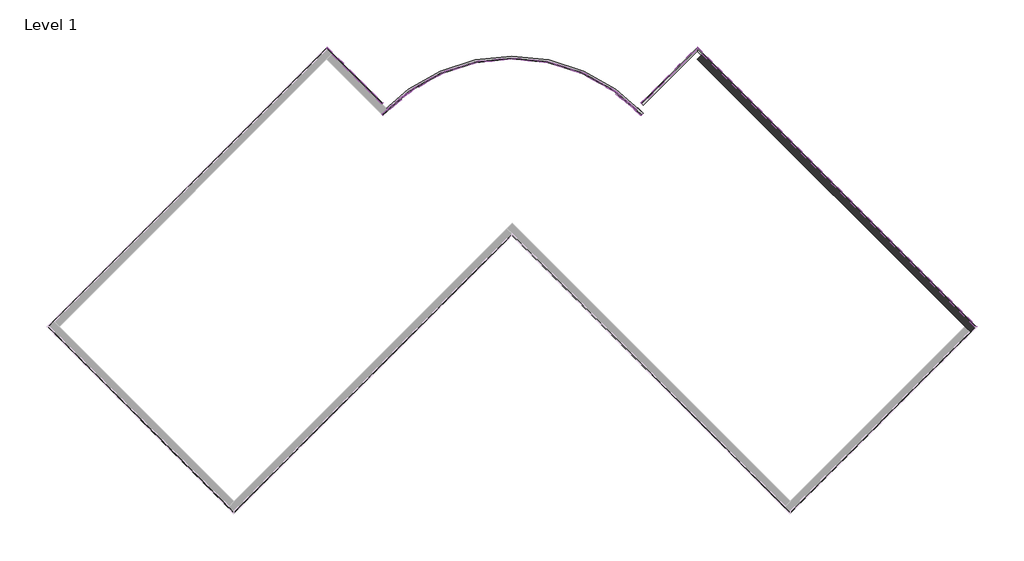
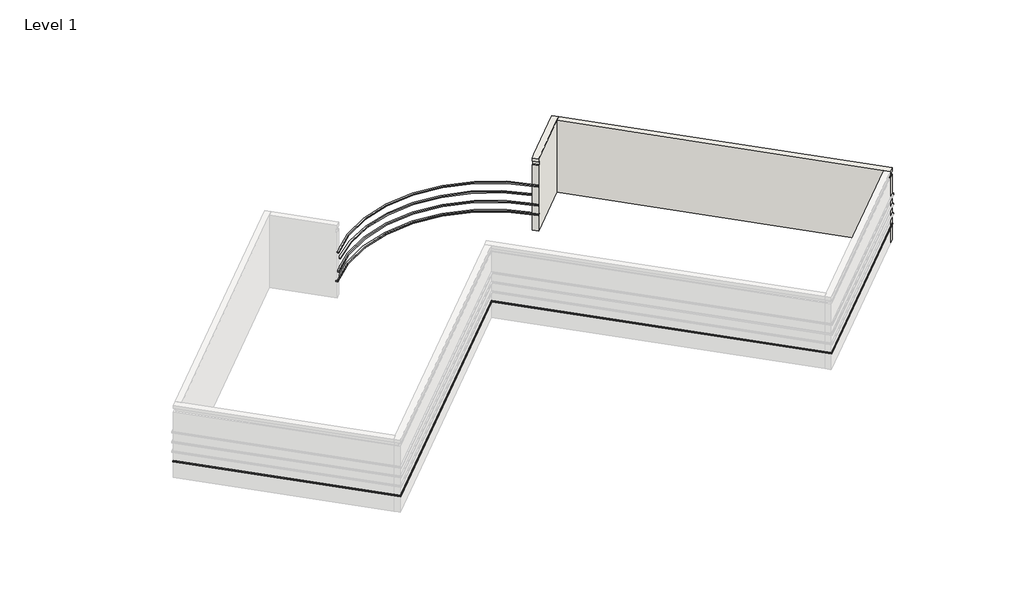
# One storey, part 2 of 2: 21 proxies, 2 walls.
"""IFC4 building model written with IfcOpenShell, lengths in millimetres."""

from ifc_helpers import new_model, si_unit, point, frame, frame_2d, origin, place, context, project, spatial, polyline, circle_curve, trimmed, segment, composite_curve, outline, extrude, faceted_brep, element, save
from ifc_brep_helpers import plane_surface, cylinder_surface, revolved_surface, advanced_brep

model = new_model("IFC4")

# Units and contexts
model_context = context("Model", 3, world=origin())
ifc_project = project(units=[si_unit("LENGTHUNIT", "METRE", prefix="MILLI")], contexts=[model_context])

# Site, building, storey
site = spatial("IfcSite", under=ifc_project)
building = spatial("IfcBuilding", under=site)
storey = spatial("IfcBuildingStorey", under=building, Name="Level 1", Elevation=0.0)

# Proxies
placement = place(None, origin())
element("IfcBuildingElementProxy", 1, Name="Wall Sweeps", at=placement, inside=storey, context=model_context, shape_type="Brep", body=[
    faceted_brep([(6055.5544139, 11965.5260839, 1085.85), (5990.447557, 12030.6329408, 1085.85), (5965.7518526, 12055.3286452, 1041.4), (5965.7518526, 12055.3286452, 1016.0), (6055.5544139, 11965.5260839, 1016.0), (8567.8313142, 14477.8029843, 1085.85), (8567.8313142, 14477.8029843, 1016.0), (8567.8313142, 14657.4081067, 1016.0), (8567.8313142, 14657.4081067, 1041.4), (8567.8313142, 14608.016698, 1085.85)], [[[0, 1, 2, 3, 4]], [[5, 6, 7, 8, 9]], [[1, 0, 5, 9]], [[2, 1, 9, 8]], [[3, 2, 8, 7]], [[4, 3, 7, 6]], [[0, 4, 6, 5]]]),
])
element("IfcBuildingElementProxy", 2, Name="Wall Sweeps", at=placement, inside=storey, context=model_context, shape_type="Brep", body=[
    faceted_brep([(8567.8313142, 14477.8029843, 1085.85), (8567.8313142, 14608.016698, 1085.85), (8567.8313142, 14657.4081067, 1041.4), (8567.8313142, 14657.4081067, 1016.0), (8567.8313142, 14477.8029843, 1016.0), (21369.1864147, 1676.4478837, 1085.85), (21369.1864147, 1676.4478837, 1016.0), (21548.7915372, 1676.4478837, 1016.0), (21548.7915372, 1676.4478837, 1041.4), (21499.4001285, 1676.4478837, 1085.85)], [[[0, 1, 2, 3, 4]], [[5, 6, 7, 8, 9]], [[1, 0, 5, 9]], [[2, 1, 9, 8]], [[3, 2, 8, 7]], [[4, 3, 7, 6]], [[0, 4, 6, 5]]]),
])
element("IfcBuildingElementProxy", 3, Name="Wall Sweeps", at=placement, inside=storey, context=model_context, shape_type="Brep", body=[
    faceted_brep([(21369.1864147, 1676.4478837, 1085.85), (21499.4001285, 1676.4478837, 1085.85), (21548.7915372, 1676.4478837, 1041.4), (21548.7915372, 1676.4478837, 1016.0), (21369.1864147, 1676.4478837, 1016.0), (12878.3542523, -6814.3842788, 1085.85), (12878.3542523, -6814.3842788, 1016.0), (12878.3542523, -6993.9894012, 1016.0), (12878.3542523, -6993.9894012, 1041.4), (12878.3542523, -6944.5979926, 1085.85)], [[[0, 1, 2, 3, 4]], [[5, 6, 7, 8, 9]], [[1, 0, 5, 9]], [[2, 1, 9, 8]], [[3, 2, 8, 7]], [[4, 3, 7, 6]], [[0, 4, 6, 5]]]),
])
element("IfcBuildingElementProxy", 4, Name="Wall Sweeps", at=placement, inside=storey, context=model_context, shape_type="Brep", body=[
    faceted_brep([(12878.3542523, -6814.3842788, 1085.85), (12878.3542523, -6944.5979926, 1085.85), (12878.3542523, -6993.9894012, 1041.4), (12878.3542523, -6993.9894012, 1016.0), (12878.3542523, -6814.3842788, 1016.0), (-53.2145621, 6117.1845355, 1085.85), (-53.2145621, 6117.1845355, 1016.0), (-53.2145621, 5937.5794131, 1016.0), (-53.2145621, 5937.5794131, 1041.4), (-53.2145621, 5986.9708218, 1085.85)], [[[0, 1, 2, 3, 4]], [[5, 6, 7, 8, 9]], [[1, 0, 5, 9]], [[2, 1, 9, 8]], [[3, 2, 8, 7]], [[4, 3, 7, 6]], [[0, 4, 6, 5]]]),
])
element("IfcBuildingElementProxy", 5, Name="Wall Sweeps", at=placement, inside=storey, context=model_context, shape_type="Brep", body=[
    faceted_brep([(-53.2145621, 6117.1845355, 1085.85), (-53.2145621, 5986.9708218, 1085.85), (-53.2145621, 5937.5794131, 1041.4), (-53.2145621, 5937.5794131, 1016.0), (-53.2145621, 6117.1845355, 1016.0), (-12984.7833764, -6814.3842788, 1085.85), (-12984.7833764, -6814.3842788, 1016.0), (-12984.7833764, -6993.9894012, 1016.0), (-12984.7833764, -6993.9894012, 1041.4), (-12984.7833764, -6944.5979926, 1085.85)], [[[0, 1, 2, 3, 4]], [[5, 6, 7, 8, 9]], [[1, 0, 5, 9]], [[2, 1, 9, 8]], [[3, 2, 8, 7]], [[4, 3, 7, 6]], [[0, 4, 6, 5]]]),
])
element("IfcBuildingElementProxy", 6, Name="Wall Sweeps", at=placement, inside=storey, context=model_context, shape_type="Brep", body=[
    faceted_brep([(-21475.6155389, 1676.4478837, 1085.85), (-21605.8292526, 1676.4478837, 1085.85), (-21655.2206613, 1676.4478837, 1041.4), (-21655.2206613, 1676.4478837, 1016.0), (-21475.6155389, 1676.4478837, 1016.0), (-8674.2604383, 14477.8029843, 1085.85), (-8674.2604383, 14477.8029843, 1016.0), (-8674.2604383, 14657.4081067, 1016.0), (-8674.2604383, 14657.4081067, 1041.4), (-8674.2604383, 14608.016698, 1085.85)], [[[0, 1, 2, 3, 4]], [[5, 6, 7, 8, 9]], [[1, 0, 5, 9]], [[2, 1, 9, 8]], [[3, 2, 8, 7]], [[4, 3, 7, 6]], [[0, 4, 6, 5]]]),
])
element("IfcBuildingElementProxy", 7, Name="Wall Sweeps", at=placement, inside=storey, context=model_context, shape_type="Brep", body=[
    faceted_brep([(-8674.2604383, 14477.8029843, 1085.85), (-8674.2604383, 14608.016698, 1085.85), (-8674.2604383, 14657.4081067, 1041.4), (-8674.2604383, 14657.4081067, 1016.0), (-8674.2604383, 14477.8029843, 1016.0), (-6161.983538, 11965.5260839, 1085.85), (-6161.983538, 11965.5260839, 1016.0), (-6072.1809768, 12055.3286452, 1016.0), (-6072.1809768, 12055.3286452, 1041.4), (-6096.8766811, 12030.6329408, 1085.85)], [[[0, 1, 2, 3, 4]], [[5, 6, 7, 8, 9]], [[1, 0, 5, 9]], [[2, 1, 9, 8]], [[3, 2, 8, 7]], [[4, 3, 7, 6]], [[0, 4, 6, 5]]]),
])
element("IfcBuildingElementProxy", 8, Name="Wall Sweeps", at=placement, inside=storey, context=model_context, shape_type="AdvancedBrep", body=[
    advanced_brep(
    [(-6160.1647864, 11590.4931541, 1085.85), (-6160.1647864, 11590.4931541, 1016.0), (-6066.9644777, 11504.2220555, 1016.0), (-6066.9644777, 11504.2220555, 1041.4), (-6092.5945626, 11527.9466076, 1085.85), (6053.7356622, 11590.4931541, 1085.85), (5986.1654385, 11527.9466076, 1085.85), (5960.5353536, 11504.2220555, 1041.4), (5960.5353536, 11504.2220555, 1016.0), (6053.7356622, 11590.4931541, 1016.0)],
    [
        (0, 1),
        (1, 2),
        (2, 3),
        (3, 4),
        (4, 0),
        (5, 6),
        (6, 7),
        (7, 8),
        (8, 9),
        (9, 5),
        (9, 1, circle_curve(frame((-53.2145621, 5937.5794131, 1016.0), z_axis=(0.0, 0.0, 1.0), x_axis=(-0.7338606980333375, 0.679299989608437, 0.0)), 8321.675)),
        (0, 5, circle_curve(frame((-53.2145621, 5937.5794131, 1085.85), z_axis=(0.0, 0.0, -1.0), x_axis=(-0.7338606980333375, 0.679299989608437, 0.0)), 8321.675)),
        (8, 2, circle_curve(frame((-53.2145621, 5937.5794131, 1016.0), z_axis=(0.0, 0.0, 1.0), x_axis=(-0.7338606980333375, 0.679299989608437, 0.0)), 8194.675)),
        (7, 3, circle_curve(frame((-53.2145621, 5937.5794131, 1041.4), z_axis=(0.0, 0.0, 1.0), x_axis=(-0.7338606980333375, 0.679299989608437, 0.0)), 8194.675)),
        (6, 4, circle_curve(frame((-53.2145621, 5937.5794131, 1085.85), z_axis=(0.0, 0.0, 1.0), x_axis=(-0.7338606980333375, 0.679299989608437, 0.0)), 8229.6)),
    ],
    [
        plane_surface(frame((-53.2145621, 5937.5794131, 1016.0), z_axis=(-0.679299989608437, -0.7338606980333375, 0.0), x_axis=(-0.7338606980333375, 0.679299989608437, 0.0))),
        plane_surface(frame((-53.2145621, 5937.5794131, 1016.0), z_axis=(0.6792999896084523, -0.7338606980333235, 0.0), x_axis=(0.7338606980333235, 0.6792999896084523, 0.0))),
        cylinder_surface(frame((-53.2145621, 5937.5794131, 1016.0), z_axis=(0.0, 0.0, -1.0), x_axis=(-0.7338606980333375, 0.679299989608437, 0.0)), 8321.675),
        plane_surface(frame((-53.2145621, 5937.5794131, 1016.0), z_axis=(0.0, 0.0, -1.0), x_axis=(-0.7338606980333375, 0.679299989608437, 0.0))),
        revolved_surface(polyline([(-6066.96447775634, 11504.222055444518, 1016.0), (-6066.96447775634, 11504.222055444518, 1041.4)]), (-53.2145621, 5937.5794131, 1016.0), (0.0, 0.0, -1.0)),
        revolved_surface(polyline([(-6066.9644777, 11504.2220555, 1041.4), (-6092.5945626, 11527.9466076, 1085.85)]), (-53.2145621, 5937.5794131, 1016.0), (0.0, 0.0, -1.0)),
        plane_surface(frame((-53.2145621, 5937.5794131, 1085.85), z_axis=(0.0, 0.0, 1.0), x_axis=(-0.7338606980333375, 0.679299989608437, 0.0))),
    ],
    [
        (0, [[1, 2, 3, 4, 5]]),
        (1, [[6, 7, 8, 9, 10]]),
        (2, [[11, -1, 12, -10]]),
        (3, [[13, -2, -11, -9]]),
        (4, [[14, -3, -13, -8]]),
        (5, [[15, -4, -14, -7]]),
        (6, [[-12, -5, -15, -6]]),
    ],
),
])
element("IfcBuildingElementProxy", 9, Name="Wall Sweeps", at=placement, inside=storey, context=model_context, shape_type="Brep", body=[
    faceted_brep([(-12984.7833764, -6814.3842788, 1085.85), (-12984.7833764, -6944.5979926, 1085.85), (-12984.7833764, -6993.9894012, 1041.4), (-12984.7833764, -6993.9894012, 1016.0), (-12984.7833764, -6814.3842788, 1016.0), (-21475.6155389, 1676.4478837, 1085.85), (-21475.6155389, 1676.4478837, 1016.0), (-21655.2206613, 1676.4478837, 1016.0), (-21655.2206613, 1676.4478837, 1041.4), (-21605.8292526, 1676.4478837, 1085.85)], [[[0, 1, 2, 3, 4]], [[5, 6, 7, 8, 9]], [[1, 0, 5, 9]], [[2, 1, 9, 8]], [[3, 2, 8, 7]], [[4, 3, 7, 6]], [[0, 4, 6, 5]]]),
])
element("IfcBuildingElementProxy", 10, Name="Reveals", at=placement, inside=storey, context=model_context, shape_type="SweptSolid", body=[
    extrude(outline(polyline([(6008.4080692, 12012.6724286), (5943.3012123, 12077.7792855), (8567.8313142, 14702.3093873), (8567.8313142, 14572.0956735), (6008.4080692, 12012.6724286)])), frame((0.0, 0.0, 1625.6), z_axis=(0.0, 0.0, 1.0), x_axis=(1.0, 0.0, 0.0)), (0.0, 0.0, 1.0), 67.7333333),
])
element("IfcBuildingElementProxy", 11, Name="Reveals", at=placement, inside=storey, context=model_context, shape_type="SweptSolid", body=[
    extrude(outline(polyline([(6008.4080692, 12012.6724286), (5943.3012123, 12077.7792855), (8567.8313142, 14702.3093873), (8567.8313142, 14572.0956735), (6008.4080692, 12012.6724286)])), frame((0.0, 0.0, 2235.2), z_axis=(0.0, 0.0, 1.0), x_axis=(1.0, 0.0, 0.0)), (0.0, 0.0, 1.0), 67.7333333),
])
element("IfcBuildingElementProxy", 12, Name="Reveals", at=placement, inside=storey, context=model_context, shape_type="SweptSolid", body=[
    extrude(outline(polyline([(6008.4080692, 12012.6724286), (5943.3012123, 12077.7792855), (8567.8313142, 14702.3093873), (8567.8313142, 14572.0956735), (6008.4080692, 12012.6724286)])), frame((0.0, 0.0, 2844.8), z_axis=(0.0, 0.0, 1.0), x_axis=(1.0, 0.0, 0.0)), (0.0, 0.0, 1.0), 67.7333333),
])
element("IfcBuildingElementProxy", 13, Name="Reveals", at=placement, inside=storey, context=model_context, shape_type="SweptSolid", body=[
    extrude(outline(polyline([(8567.8313142, 14572.0956735), (8567.8313142, 14702.3093873), (21593.6928178, 1676.4478837), (21463.479104, 1676.4478837), (8567.8313142, 14572.0956735)])), frame((0.0, 0.0, 1625.6), z_axis=(0.0, 0.0, 1.0), x_axis=(1.0, 0.0, 0.0)), (0.0, 0.0, 1.0), 67.7333333),
])
element("IfcBuildingElementProxy", 14, Name="Reveals", at=placement, inside=storey, context=model_context, shape_type="SweptSolid", body=[
    extrude(outline(polyline([(8567.8313142, 14572.0956735), (8567.8313142, 14702.3093873), (21593.6928178, 1676.4478837), (21463.479104, 1676.4478837), (8567.8313142, 14572.0956735)])), frame((0.0, 0.0, 2235.2), z_axis=(0.0, 0.0, 1.0), x_axis=(1.0, 0.0, 0.0)), (0.0, 0.0, 1.0), 67.7333333),
])
element("IfcBuildingElementProxy", 15, Name="Reveals", at=placement, inside=storey, context=model_context, shape_type="SweptSolid", body=[
    extrude(outline(polyline([(8567.8313142, 14572.0956735), (8567.8313142, 14702.3093873), (21593.6928178, 1676.4478837), (21463.479104, 1676.4478837), (8567.8313142, 14572.0956735)])), frame((0.0, 0.0, 2844.8), z_axis=(0.0, 0.0, 1.0), x_axis=(1.0, 0.0, 0.0)), (0.0, 0.0, 1.0), 67.7333333),
])
element("IfcBuildingElementProxy", 16, Name="Reveals", at=placement, inside=storey, context=model_context, shape_type="SweptSolid", body=[
    extrude(outline(polyline([(-8674.2604383, 14572.0956735), (-8674.2604383, 14702.3093873), (-6049.7303365, 12077.7792855), (-6114.8371933, 12012.6724286), (-8674.2604383, 14572.0956735)])), frame((0.0, 0.0, 1625.6), z_axis=(0.0, 0.0, 1.0), x_axis=(1.0, 0.0, 0.0)), (0.0, 0.0, 1.0), 67.7333333),
])
element("IfcBuildingElementProxy", 17, Name="Reveals", at=placement, inside=storey, context=model_context, shape_type="SweptSolid", body=[
    extrude(outline(polyline([(-8674.2604383, 14572.0956735), (-8674.2604383, 14702.3093873), (-6049.7303365, 12077.7792855), (-6114.8371933, 12012.6724286), (-8674.2604383, 14572.0956735)])), frame((0.0, 0.0, 2235.2), z_axis=(0.0, 0.0, 1.0), x_axis=(1.0, 0.0, 0.0)), (0.0, 0.0, 1.0), 67.7333333),
])
element("IfcBuildingElementProxy", 18, Name="Reveals", at=placement, inside=storey, context=model_context, shape_type="SweptSolid", body=[
    extrude(outline(polyline([(-8674.2604383, 14572.0956735), (-8674.2604383, 14702.3093873), (-6049.7303365, 12077.7792855), (-6114.8371933, 12012.6724286), (-8674.2604383, 14572.0956735)])), frame((0.0, 0.0, 2844.8), z_axis=(0.0, 0.0, 1.0), x_axis=(1.0, 0.0, 0.0)), (0.0, 0.0, 1.0), 67.7333333),
])
element("IfcBuildingElementProxy", 19, Name="Reveals", at=placement, inside=storey, context=model_context, shape_type="SweptSolid", body=[
    extrude(outline(composite_curve([segment(trimmed(circle_curve(frame_2d((-53.2145621, 5937.5794131)), 8162.925), [point((5938.9836802, 11480.7648494))], [point((-6045.4128044, 11480.7648494))], True, "CARTESIAN"), True, "CONTINUOUS"), segment(polyline([(-6045.4128044, 11480.7648494), (-6110.5684151, 11545.9204601)]), True, "CONTINUOUS"), segment(trimmed(circle_curve(frame_2d((-53.2145621, 5937.5794131)), 8255.0), [point((-6110.5684151, 11545.9204601))], [point((6004.139291, 11545.9204601))], False, "CARTESIAN"), True, "CONTINUOUS"), segment(polyline([(6004.139291, 11545.9204601), (5938.9836802, 11480.7648494)]), True, "CONTINUOUS")], self_intersect=False)), frame((0.0, 0.0, 1625.6), z_axis=(0.0, 0.0, 1.0), x_axis=(1.0, 0.0, 0.0)), (0.0, 0.0, 1.0), 67.7333333),
])
element("IfcBuildingElementProxy", 20, Name="Reveals", at=placement, inside=storey, context=model_context, shape_type="SweptSolid", body=[
    extrude(outline(composite_curve([segment(trimmed(circle_curve(frame_2d((-53.2145621, 5937.5794131)), 8162.925), [point((5694.2974585, 11734.0826805))], [point((-5800.7265827, 11734.0826805))], True, "CARTESIAN"), True, "CONTINUOUS"), segment(polyline([(-5800.7265827, 11734.0826805), (-5865.556551, 11799.4652533)]), True, "CONTINUOUS"), segment(trimmed(circle_curve(frame_2d((-53.2145621, 5937.5794131)), 8255.0), [point((-5865.556551, 11799.4652533))], [point((5759.1274269, 11799.4652533))], False, "CARTESIAN"), True, "CONTINUOUS"), segment(polyline([(5759.1274269, 11799.4652533), (5694.2974585, 11734.0826805)]), True, "CONTINUOUS")], self_intersect=False)), frame((0.0, 0.0, 2235.2), z_axis=(0.0, 0.0, 1.0), x_axis=(1.0, 0.0, 0.0)), (0.0, 0.0, 1.0), 67.7333333),
])
element("IfcBuildingElementProxy", 21, Name="Reveals", at=placement, inside=storey, context=model_context, shape_type="SweptSolid", body=[
    extrude(outline(composite_curve([segment(trimmed(circle_curve(frame_2d((-53.2145621, 5937.5794131)), 8162.925), [point((5938.9836802, 11480.7648494))], [point((-6045.4128044, 11480.7648494))], True, "CARTESIAN"), True, "CONTINUOUS"), segment(polyline([(-6045.4128044, 11480.7648494), (-6110.5684151, 11545.9204601)]), True, "CONTINUOUS"), segment(trimmed(circle_curve(frame_2d((-53.2145621, 5937.5794131)), 8255.0), [point((-6110.5684151, 11545.9204601))], [point((6004.139291, 11545.9204601))], False, "CARTESIAN"), True, "CONTINUOUS"), segment(polyline([(6004.139291, 11545.9204601), (5938.9836802, 11480.7648494)]), True, "CONTINUOUS")], self_intersect=False)), frame((0.0, 0.0, 2844.8), z_axis=(0.0, 0.0, 1.0), x_axis=(1.0, 0.0, 0.0)), (0.0, 0.0, 1.0), 67.7333333),
])

# Walls
element("IfcWall", 22, ObjectType="Exterior - Brick and CMU on MTL. Stud", at=placement, inside=storey, context=model_context, shape_type="AdvancedBrep", body=[
    advanced_brep(
    [(5986.1654385, 11527.9466076, 0.0), (8567.8313142, 14109.6124833, 0.0), (8817.0334215, 14358.8145906, 0.0), (8817.0334215, 14358.8145906, 1016.0), (8751.9265646, 14293.7077338, 1016.0), (8751.9265646, 14293.7077338, 1085.85), (8817.0334215, 14358.8145906, 1085.85), (8817.0334215, 14358.8145906, 1625.6), (8799.0729093, 14340.8540784, 1625.6), (8799.0729093, 14340.8540784, 1693.3333333), (8817.0334215, 14358.8145906, 1693.3333333), (8817.0334215, 14358.8145906, 2235.2), (8799.0729093, 14340.8540784, 2235.2), (8799.0729093, 14340.8540784, 2302.9333333), (8817.0334215, 14358.8145906, 2302.9333333), (8817.0334215, 14358.8145906, 2844.8), (8799.0729093, 14340.8540784, 2844.8), (8799.0729093, 14340.8540784, 2912.5333333), (8817.0334215, 14358.8145906, 2912.5333333), (8817.0334215, 14358.8145906, 4165.6), (8751.9265646, 14293.7077338, 4165.6), (8751.9265646, 14293.7077338, 4368.8), (8817.0334215, 14358.8145906, 4368.8), (8817.0334215, 14358.8145906, 4572.0), (8567.8313142, 14109.6124833, 4572.0), (5986.1654385, 11527.9466076, 4572.0), (5986.1654385, 11527.9466076, 4368.8), (6051.3202659, 11593.101435, 4368.8), (6051.3202659, 11593.101435, 4165.6), (5986.1654385, 11527.9466076, 4165.6), (5986.1654385, 11527.9466076, 2912.5333333), (6004.139291, 11545.9204601, 2912.5333333), (6004.139291, 11545.9204601, 2844.8), (5986.1654385, 11527.9466076, 2844.8), (5986.1654385, 11527.9466076, 1693.3333333), (6004.139291, 11545.9204601, 1693.3333333), (6004.139291, 11545.9204601, 1625.6), (5986.1654385, 11527.9466076, 1625.6), (5986.1654385, 11527.9466076, 1085.85), (6051.3202659, 11593.101435, 1085.85), (6051.3202659, 11593.101435, 1016.0), (5986.1654385, 11527.9466076, 1016.0), (5741.2432977, 11781.4286815, 4572.0), (5990.447557, 12030.6329408, 4572.0), (8567.8313142, 14608.016698, 4572.0), (8567.8313142, 14608.016698, 4368.8), (5990.447557, 12030.6329408, 4368.8), (5990.447557, 12030.6329408, 4165.6), (8567.8313142, 14608.016698, 4165.6), (8567.8313142, 14608.016698, 2912.5333333), (5990.447557, 12030.6329408, 2912.5333333), (5990.447557, 12030.6329408, 2844.8), (8567.8313142, 14608.016698, 2844.8), (8567.8313142, 14608.016698, 2302.9333333), (5990.447557, 12030.6329408, 2302.9333333), (5990.447557, 12030.6329408, 2235.2), (8567.8313142, 14608.016698, 2235.2), (8567.8313142, 14608.016698, 1693.3333333), (5990.447557, 12030.6329408, 1693.3333333), (5990.447557, 12030.6329408, 1625.6), (8567.8313142, 14608.016698, 1625.6), (8567.8313142, 14608.016698, 1085.85), (5990.447557, 12030.6329408, 1085.85), (5990.447557, 12030.6329408, 1016.0), (8567.8313142, 14608.016698, 1016.0), (8567.8313142, 14608.016698, 0.0), (5990.447557, 12030.6329408, 0.0), (5741.2432977, 11781.4286815, 0.0), (5741.2432977, 11781.4286815, 1016.0), (5806.3507344, 11846.5361182, 1016.0), (5806.3507344, 11846.5361182, 1085.85), (5741.2432977, 11781.4286815, 1085.85), (5741.2432977, 11781.4286815, 1625.6), (5759.2039712, 11799.389355, 1625.6), (5759.2039712, 11799.389355, 1693.3333333), (5741.2432977, 11781.4286815, 1693.3333333), (5741.2432977, 11781.4286815, 2235.2), (5741.2432977, 11781.4286815, 2302.9333333), (5741.2432977, 11781.4286815, 2844.8), (5759.2039712, 11799.389355, 2844.8), (5759.2039712, 11799.389355, 2912.5333333), (5741.2432977, 11781.4286815, 2912.5333333), (5741.2432977, 11781.4286815, 4165.6), (5806.3507344, 11846.5361182, 4165.6), (5806.3507344, 11846.5361182, 4368.8), (5741.2432977, 11781.4286815, 4368.8), (8632.938171, 14542.9098411, 0.0), (5806.2622387, 11716.2339088, 0.0), (6055.5544139, 11965.5260839, 1085.85), (6055.5544139, 11965.5260839, 1016.0), (8567.8313142, 14477.8029843, 1085.85), (8567.8313142, 14477.8029843, 1016.0), (6055.5544139, 11965.5260839, 4165.6), (6055.5544139, 11965.5260839, 4368.8), (8567.8313142, 14477.8029843, 4165.6), (8567.8313142, 14477.8029843, 4368.8), (6008.4080692, 12012.6724286, 1693.3333333), (6008.4080692, 12012.6724286, 1625.6), (8567.8313142, 14572.0956735, 1693.3333333), (8567.8313142, 14572.0956735, 1625.6), (6008.4080692, 12012.6724286, 2302.9333333), (6008.4080692, 12012.6724286, 2235.2), (8567.8313142, 14572.0956735, 2302.9333333), (8567.8313142, 14572.0956735, 2235.2), (6008.4080692, 12012.6724286, 2912.5333333), (6008.4080692, 12012.6724286, 2844.8), (8567.8313142, 14572.0956735, 2912.5333333), (8567.8313142, 14572.0956735, 2844.8)],
    [
        (0, 1),
        (1, 2),
        (2, 3),
        (3, 4),
        (4, 5),
        (5, 6),
        (6, 7),
        (7, 8),
        (8, 9),
        (9, 10),
        (10, 11),
        (11, 12),
        (12, 13),
        (13, 14),
        (14, 15),
        (15, 16),
        (16, 17),
        (17, 18),
        (18, 19),
        (19, 20),
        (20, 21),
        (21, 22),
        (22, 23),
        (23, 24),
        (24, 25),
        (25, 26),
        (26, 27),
        (27, 28),
        (28, 29),
        (29, 30),
        (30, 31),
        (31, 32),
        (32, 33),
        (33, 34),
        (34, 35),
        (35, 36),
        (36, 37),
        (37, 38),
        (38, 39),
        (39, 40),
        (40, 41),
        (41, 0),
        (42, 43),
        (43, 44),
        (44, 45),
        (45, 46),
        (46, 47),
        (47, 48),
        (48, 49),
        (49, 50),
        (50, 51),
        (51, 52),
        (52, 53),
        (53, 54),
        (54, 55),
        (55, 56),
        (56, 57),
        (57, 58),
        (58, 59),
        (59, 60),
        (60, 61),
        (61, 62),
        (62, 63),
        (63, 64),
        (64, 65),
        (65, 66),
        (66, 67),
        (67, 68),
        (68, 69),
        (69, 70),
        (70, 71),
        (71, 72),
        (72, 73),
        (73, 74),
        (74, 75),
        (75, 76),
        (76, 77),
        (77, 78),
        (78, 79),
        (79, 80),
        (80, 81),
        (81, 82),
        (82, 83),
        (83, 84),
        (84, 85),
        (85, 42),
        (23, 44),
        (42, 25, circle_curve(frame((-53.2145621, 5937.5794131, 4572.0), z_axis=(0.0, 0.0, -1.0), x_axis=(1.0, 0.0, 0.0)), 8229.6)),
        (22, 45),
        (2, 86),
        (86, 65),
        (64, 3),
        (6, 61),
        (60, 7),
        (48, 19),
        (18, 49),
        (10, 57),
        (56, 11),
        (14, 53),
        (52, 15),
        (85, 26, circle_curve(frame((-53.2145621, 5937.5794131, 4368.8), z_axis=(0.0, 0.0, -1.0), x_axis=(1.0, 0.0, 0.0)), 8229.6)),
        (87, 0, circle_curve(frame((-53.2145621, 5937.5794131, 0.0), z_axis=(0.0, 0.0, -1.0), x_axis=(1.0, 0.0, 0.0)), 8229.6)),
        (41, 68, circle_curve(frame((-53.2145621, 5937.5794131, 1016.0), z_axis=(0.0, 0.0, 1.0), x_axis=(1.0, 0.0, 0.0)), 8229.6)),
        (67, 87, circle_curve(frame((-53.2145621, 5937.5794131, 0.0), z_axis=(0.0, 0.0, -1.0), x_axis=(1.0, 0.0, 0.0)), 8229.6)),
        (71, 38, circle_curve(frame((-53.2145621, 5937.5794131, 1085.85), z_axis=(0.0, 0.0, -1.0), x_axis=(1.0, 0.0, 0.0)), 8229.6)),
        (37, 72, circle_curve(frame((-53.2145621, 5937.5794131, 1625.6), z_axis=(0.0, 0.0, 1.0), x_axis=(1.0, 0.0, 0.0)), 8229.6)),
        (29, 82, circle_curve(frame((-53.2145621, 5937.5794131, 4165.6), z_axis=(0.0, 0.0, 1.0), x_axis=(1.0, 0.0, 0.0)), 8229.6)),
        (81, 30, circle_curve(frame((-53.2145621, 5937.5794131, 2912.5333333), z_axis=(0.0, 0.0, -1.0), x_axis=(1.0, 0.0, 0.0)), 8229.6)),
        (75, 34, circle_curve(frame((-53.2145621, 5937.5794131, 1693.3333333), z_axis=(0.0, 0.0, -1.0), x_axis=(1.0, 0.0, 0.0)), 8229.6)),
        (33, 78, circle_curve(frame((-53.2145621, 5937.5794131, 2844.8), z_axis=(0.0, 0.0, 1.0), x_axis=(1.0, 0.0, 0.0)), 8229.6)),
        (87, 86),
        (62, 88),
        (88, 89),
        (89, 63),
        (5, 90),
        (90, 88),
        (89, 91),
        (91, 4),
        (90, 91),
        (92, 47),
        (46, 93),
        (93, 92),
        (92, 94),
        (94, 20),
        (93, 95),
        (95, 94),
        (21, 95),
        (39, 70, circle_curve(frame((-53.2145621, 5937.5794131, 1085.85), z_axis=(0.0, 0.0, 1.0), x_axis=(-0.7338606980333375, 0.679299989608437, 0.0)), 8321.675)),
        (69, 40, circle_curve(frame((-53.2145621, 5937.5794131, 1016.0), z_axis=(0.0, 0.0, -1.0), x_axis=(-0.7338606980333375, 0.679299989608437, 0.0)), 8321.675)),
        (84, 27, circle_curve(frame((-53.2145621, 5937.5794131, 4368.8), z_axis=(0.0, 0.0, -1.0), x_axis=(-0.7338606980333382, 0.6792999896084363, 0.0)), 8321.675)),
        (83, 28, circle_curve(frame((-53.2145621, 5937.5794131, 4165.6), z_axis=(0.0, 0.0, -1.0), x_axis=(-0.7338606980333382, 0.6792999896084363, 0.0)), 8321.675)),
        (96, 97),
        (97, 59),
        (58, 96),
        (98, 96),
        (9, 98),
        (97, 99),
        (99, 8),
        (98, 99),
        (100, 101),
        (101, 55),
        (54, 100),
        (102, 100),
        (13, 102),
        (101, 103),
        (103, 12),
        (102, 103),
        (104, 105),
        (105, 51),
        (50, 104),
        (106, 104),
        (17, 106),
        (105, 107),
        (107, 16),
        (106, 107),
        (35, 74, circle_curve(frame((-53.2145621, 5937.5794131, 1693.3333333), z_axis=(0.0, 0.0, 1.0), x_axis=(-0.7338606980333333, 0.6792999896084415, 0.0)), 8255.0)),
        (73, 36, circle_curve(frame((-53.2145621, 5937.5794131, 1625.6), z_axis=(0.0, 0.0, -1.0), x_axis=(-0.7338606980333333, 0.6792999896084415, 0.0)), 8255.0)),
        (31, 80, circle_curve(frame((-53.2145621, 5937.5794131, 2912.5333333), z_axis=(0.0, 0.0, 1.0), x_axis=(-0.7338606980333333, 0.6792999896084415, 0.0)), 8255.0)),
        (79, 32, circle_curve(frame((-53.2145621, 5937.5794131, 2844.8), z_axis=(0.0, 0.0, -1.0), x_axis=(-0.7338606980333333, 0.6792999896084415, 0.0)), 8255.0)),
    ],
    [
        plane_surface(frame((5799.6673648, 11341.448534, 0.0), z_axis=(0.707106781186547, -0.7071067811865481, 0.0), x_axis=(0.7071067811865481, 0.707106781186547, 0.0))),
        plane_surface(frame((5550.4652575, 11590.6506413, 0.0), z_axis=(-0.707106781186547, 0.7071067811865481, 0.0), x_axis=(-0.7071067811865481, -0.707106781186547, 0.0))),
        plane_surface(frame((8692.4323678, 14234.213537, 4572.0), z_axis=(0.0, 0.0, 1.0000000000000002), x_axis=(-0.7071067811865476, 0.7071067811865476, 0.0))),
        plane_surface(frame((8567.8313142, 14608.016698, 0.0), z_axis=(0.7071067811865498, 0.7071067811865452, 0.0), x_axis=(-0.7071067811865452, 0.7071067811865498, 0.0))),
        revolved_surface(polyline([(8176.3854379, 5937.5794131, 4368.8), (8176.3854379, 5937.5794131, 4572.0)]), (-53.2145621, 5937.5794131, 0.0), (0.0, 0.0, -1.0)),
        revolved_surface(polyline([(8176.3854379, 5937.5794131, 0.0), (8176.3854379, 5937.5794131, 1016.0)]), (-53.2145621, 5937.5794131, 0.0), (0.0, 0.0, -1.0)),
        revolved_surface(polyline([(8176.3854379, 5937.5794131, 1085.85), (8176.3854379, 5937.5794131, 1625.6)]), (-53.2145621, 5937.5794131, 0.0), (0.0, 0.0, -1.0)),
        revolved_surface(polyline([(8176.3854379, 5937.5794131, 2912.5333333), (8176.3854379, 5937.5794131, 4165.6)]), (-53.2145621, 5937.5794131, 0.0), (0.0, 0.0, -1.0)),
        revolved_surface(polyline([(8176.3854379, 5937.5794131, 1693.3333333), (8176.3854379, 5937.5794131, 2844.8)]), (-53.2145621, 5937.5794131, 0.0), (0.0, 0.0, -1.0)),
        plane_surface(frame((6114.2591818, 11656.0403509, 0.0), z_axis=(0.0, 0.0, -1.0000000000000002), x_axis=(-0.7071067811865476, 0.7071067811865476, 0.0))),
        plane_surface(frame((0.0, 0.0, 0.0), z_axis=(0.0, 0.0, -1.0), x_axis=(1.0, 0.0, 0.0))),
        plane_surface(frame((5990.447557, 12030.6329408, 1131.5717445), z_axis=(0.7071067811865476, 0.7071067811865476, 0.0), x_axis=(0.7071067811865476, -0.7071067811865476, 0.0))),
        plane_surface(frame((6055.5544139, 11965.5260839, 1085.85), z_axis=(0.0, 0.0, -1.0), x_axis=(0.707106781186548, 0.7071067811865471, 0.0))),
        plane_surface(frame((5965.7518526, 12055.3286452, 1016.0), z_axis=(0.0, 0.0, 1.0), x_axis=(0.707106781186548, 0.7071067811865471, 0.0))),
        plane_surface(frame((6055.5544139, 11965.5260839, 1016.0), z_axis=(-0.7071067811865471, 0.707106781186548, 0.0), x_axis=(0.707106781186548, 0.7071067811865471, 0.0))),
        plane_surface(frame((8567.8313142, 14477.8029843, 1016.0), z_axis=(0.7071067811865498, 0.7071067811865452, 0.0), x_axis=(0.7071067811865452, -0.7071067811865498, 0.0))),
        plane_surface(frame((6055.5544139, 11965.5260839, 4388.6875291), z_axis=(0.7071067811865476, 0.7071067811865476, 0.0), x_axis=(0.7071067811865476, -0.7071067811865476, 0.0))),
        plane_surface(frame((5990.447557, 12030.6329408, 4165.6), z_axis=(0.0, 0.0, 1.0000000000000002), x_axis=(0.7071067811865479, 0.7071067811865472, 0.0))),
        plane_surface(frame((6055.5544139, 11965.5260839, 4165.6), z_axis=(-0.7071067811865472, 0.7071067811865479, 0.0), x_axis=(0.7071067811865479, 0.7071067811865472, 0.0))),
        plane_surface(frame((6055.5544139, 11965.5260839, 4368.8), z_axis=(0.0, 0.0, -1.0000000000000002), x_axis=(0.7071067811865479, 0.7071067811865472, 0.0))),
        plane_surface(frame((8567.8313142, 14477.8029843, 4165.6), z_axis=(0.7071067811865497, 0.7071067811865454, 0.0), x_axis=(0.7071067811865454, -0.7071067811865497, 0.0))),
        revolved_surface(polyline([(-6160.1647864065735, 11590.49315412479, 1016.0), (-6160.1647864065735, 11590.49315412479, 1085.85)]), (-53.2145621, 5937.5794131, 1016.0), (0.0, 0.0, -1.0)),
        plane_surface(frame((-53.2145621, 5937.5794131, 1016.0), z_axis=(0.0, 0.0, 1.0), x_axis=(-0.7338606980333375, 0.679299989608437, 0.0))),
        plane_surface(frame((-53.2145621, 5937.5794131, 1085.85), z_axis=(0.0, 0.0, -1.0), x_axis=(-0.7338606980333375, 0.679299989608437, 0.0))),
        plane_surface(frame((-53.2145621, 5937.5794131, 4368.8), z_axis=(0.0, 0.0, -1.0), x_axis=(-0.7338606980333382, 0.6792999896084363, 0.0))),
        revolved_surface(polyline([(-6160.164786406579, 11590.493154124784, 4165.6), (-6160.164786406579, 11590.493154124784, 4368.8)]), (-53.2145621, 5937.5794131, 4165.6), (0.0, 0.0, -1.0)),
        plane_surface(frame((-53.2145621, 5937.5794131, 4165.6), z_axis=(0.0, 0.0, 1.0), x_axis=(-0.7338606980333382, 0.6792999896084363, 0.0))),
        plane_surface(frame((5990.447557, 12030.6329408, 1720.6439902), z_axis=(0.7071067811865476, 0.7071067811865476, 0.0), x_axis=(0.7071067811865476, -0.7071067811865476, 0.0))),
        plane_surface(frame((6008.4080692, 12012.6724286, 1693.3333333), z_axis=(0.0, 0.0, -1.0), x_axis=(0.707106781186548, 0.7071067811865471, 0.0))),
        plane_surface(frame((5943.3012123, 12077.7792855, 1625.6), z_axis=(0.0, 0.0, 1.0000000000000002), x_axis=(0.7071067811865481, 0.707106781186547, 0.0))),
        plane_surface(frame((6008.4080692, 12012.6724286, 1625.6), z_axis=(-0.7071067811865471, 0.707106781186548, 0.0), x_axis=(0.707106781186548, 0.7071067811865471, 0.0))),
        plane_surface(frame((8567.8313142, 14572.0956735, 1625.6), z_axis=(0.7071067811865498, 0.7071067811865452, 0.0), x_axis=(0.7071067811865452, -0.7071067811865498, 0.0))),
        plane_surface(frame((5990.447557, 12030.6329408, 2330.2439902), z_axis=(0.7071067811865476, 0.7071067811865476, 0.0), x_axis=(0.7071067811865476, -0.7071067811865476, 0.0))),
        plane_surface(frame((6008.4080692, 12012.6724286, 2302.9333333), z_axis=(0.0, 0.0, -1.0), x_axis=(0.707106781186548, 0.7071067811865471, 0.0))),
        plane_surface(frame((5943.3012123, 12077.7792855, 2235.2), z_axis=(0.0, 0.0, 1.0000000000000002), x_axis=(0.7071067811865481, 0.707106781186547, 0.0))),
        plane_surface(frame((6008.4080692, 12012.6724286, 2235.2), z_axis=(-0.7071067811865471, 0.707106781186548, 0.0), x_axis=(0.707106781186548, 0.7071067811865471, 0.0))),
        plane_surface(frame((8567.8313142, 14572.0956735, 2235.2), z_axis=(0.7071067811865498, 0.7071067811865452, 0.0), x_axis=(0.7071067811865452, -0.7071067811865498, 0.0))),
        plane_surface(frame((5990.447557, 12030.6329408, 2939.8439902), z_axis=(0.7071067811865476, 0.7071067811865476, 0.0), x_axis=(0.7071067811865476, -0.7071067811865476, 0.0))),
        plane_surface(frame((6008.4080692, 12012.6724286, 2912.5333333), z_axis=(0.0, 0.0, -1.0), x_axis=(0.707106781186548, 0.7071067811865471, 0.0))),
        plane_surface(frame((5943.3012123, 12077.7792855, 2844.8), z_axis=(0.0, 0.0, 1.0000000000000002), x_axis=(0.7071067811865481, 0.707106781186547, 0.0))),
        plane_surface(frame((6008.4080692, 12012.6724286, 2844.8), z_axis=(-0.7071067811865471, 0.707106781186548, 0.0), x_axis=(0.707106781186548, 0.7071067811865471, 0.0))),
        plane_surface(frame((8567.8313142, 14572.0956735, 2844.8), z_axis=(0.7071067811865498, 0.7071067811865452, 0.0), x_axis=(0.7071067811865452, -0.7071067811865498, 0.0))),
        revolved_surface(polyline([(-6111.234624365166, 11545.200827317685, 1625.6), (-6111.234624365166, 11545.200827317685, 1693.3333333)]), (-53.2145621, 5937.5794131, 1625.6), (0.0, 0.0, -1.0)),
        plane_surface(frame((-53.2145621, 5937.5794131, 1625.6), z_axis=(0.0, 0.0, 1.0), x_axis=(-0.7338606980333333, 0.6792999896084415, 0.0))),
        plane_surface(frame((-53.2145621, 5937.5794131, 1693.3333333), z_axis=(0.0, 0.0, -1.0), x_axis=(-0.7338606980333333, 0.6792999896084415, 0.0))),
        revolved_surface(polyline([(-6111.234624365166, 11545.200827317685, 2844.8), (-6111.234624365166, 11545.200827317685, 2912.5333333)]), (-53.2145621, 5937.5794131, 2844.8), (0.0, 0.0, -1.0)),
        plane_surface(frame((-53.2145621, 5937.5794131, 2844.8), z_axis=(0.0, 0.0, 1.0), x_axis=(-0.7338606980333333, 0.6792999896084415, 0.0))),
        plane_surface(frame((-53.2145621, 5937.5794131, 2912.5333333), z_axis=(0.0, 0.0, -1.0), x_axis=(-0.7338606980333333, 0.6792999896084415, 0.0))),
    ],
    [
        (0, [[1, 2, 3, 4, 5, 6, 7, 8, 9, 10, 11, 12, 13, 14, 15, 16, 17, 18, 19, 20, 21, 22, 23, 24, 25, 26, 27, 28, 29, 30, 31, 32, 33, 34, 35, 36, 37, 38, 39, 40, 41, 42]]),
        (1, [[43, 44, 45, 46, 47, 48, 49, 50, 51, 52, 53, 54, 55, 56, 57, 58, 59, 60, 61, 62, 63, 64, 65, 66, 67, 68, 69, 70, 71, 72, 73, 74, 75, 76, 77, 78, 79, 80, 81, 82, 83, 84, 85, 86]]),
        (2, [[-25, -24, 87, -44, -43, 88]]),
        (3, [[-87, -23, 89, -45]]),
        (3, [[90, 91, -65, 92, -3]]),
        (3, [[93, -61, 94, -7]]),
        (3, [[95, -19, 96, -49]]),
        (3, [[97, -57, 98, -11]]),
        (3, [[99, -53, 100, -15]]),
        (4, [[-88, -86, 101, -26]]),
        (5, [[102, -42, 103, -68, 104]]),
        (6, [[105, -38, 106, -72]]),
        (7, [[107, -82, 108, -30]]),
        (8, [[109, -34, 110, -78, -77, -76]]),
        (9, [[-2, -1, -102, 111, -90]]),
        (10, [[-104, -67, -66, -91, -111]]),
        (11, [[112, 113, 114, -63]]),
        (12, [[-112, -62, -93, -6, 115, 116]]),
        (13, [[117, 118, -4, -92, -64, -114]]),
        (14, [[-113, -116, 119, -117]]),
        (15, [[-119, -115, -5, -118]]),
        (16, [[120, -47, 121, 122]]),
        (17, [[-120, 123, 124, -20, -95, -48]]),
        (18, [[-122, 125, 126, -123]]),
        (19, [[-121, -46, -89, -22, 127, -125]]),
        (20, [[-126, -127, -21, -124]]),
        (21, [[128, -70, 129, -40]]),
        (22, [[-129, -69, -103, -41]]),
        (23, [[-128, -39, -105, -71]]),
        (24, [[130, -27, -101, -85]]),
        (25, [[-130, -84, 131, -28]]),
        (26, [[-131, -83, -107, -29]]),
        (27, [[132, 133, -59, 134]]),
        (28, [[135, -134, -58, -97, -10, 136]]),
        (29, [[137, 138, -8, -94, -60, -133]]),
        (30, [[-132, -135, 139, -137]]),
        (31, [[-139, -136, -9, -138]]),
        (32, [[140, 141, -55, 142]]),
        (33, [[143, -142, -54, -99, -14, 144]]),
        (34, [[145, 146, -12, -98, -56, -141]]),
        (35, [[-140, -143, 147, -145]]),
        (36, [[-147, -144, -13, -146]]),
        (37, [[148, 149, -51, 150]]),
        (38, [[151, -150, -50, -96, -18, 152]]),
        (39, [[153, 154, -16, -100, -52, -149]]),
        (40, [[-148, -151, 155, -153]]),
        (41, [[-155, -152, -17, -154]]),
        (42, [[156, -74, 157, -36]]),
        (43, [[-157, -73, -106, -37]]),
        (44, [[-156, -35, -109, -75]]),
        (45, [[158, -80, 159, -32]]),
        (46, [[-159, -79, -110, -33]]),
        (47, [[-158, -31, -108, -81]]),
    ],
),
])
element("IfcWall", 23, ObjectType="Exterior - Brick and CMU on MTL. Stud", at=placement, inside=storey, context=model_context, shape_type="Brep", body=[
    faceted_brep([(8567.8313142, 14109.6124833, 0.0), (21000.9959138, 1676.4478837, 0.0), (21250.1980211, 1427.2457763, 0.0), (21250.1980211, 1427.2457763, 1016.0), (21185.0911643, 1492.3526332, 1016.0), (21185.0911643, 1492.3526332, 1085.85), (21250.1980211, 1427.2457763, 1085.85), (21250.1980211, 1427.2457763, 1625.6), (21232.2375089, 1445.2062886, 1625.6), (21232.2375089, 1445.2062886, 1693.3333333), (21250.1980211, 1427.2457763, 1693.3333333), (21250.1980211, 1427.2457763, 2235.2), (21232.2375089, 1445.2062886, 2235.2), (21232.2375089, 1445.2062886, 2302.9333333), (21250.1980211, 1427.2457763, 2302.9333333), (21250.1980211, 1427.2457763, 2844.8), (21232.2375089, 1445.2062886, 2844.8), (21232.2375089, 1445.2062886, 2912.5333333), (21250.1980211, 1427.2457763, 2912.5333333), (21250.1980211, 1427.2457763, 4165.6), (21185.0911643, 1492.3526332, 4165.6), (21185.0911643, 1492.3526332, 4368.8), (21250.1980211, 1427.2457763, 4368.8), (21250.1980211, 1427.2457763, 4572.0), (21000.9959138, 1676.4478837, 4572.0), (8567.8313142, 14109.6124833, 4572.0), (8817.0334215, 14358.8145906, 4572.0), (21499.4001285, 1676.4478837, 4572.0), (21499.4001285, 1676.4478837, 4368.8), (8817.0334215, 14358.8145906, 4368.8), (21499.4001285, 1676.4478837, 0.0), (8817.0334215, 14358.8145906, 0.0), (8817.0334215, 14358.8145906, 1016.0), (21499.4001285, 1676.4478837, 1016.0), (21499.4001285, 1676.4478837, 1085.85), (8817.0334215, 14358.8145906, 1085.85), (8817.0334215, 14358.8145906, 1625.6), (21499.4001285, 1676.4478837, 1625.6), (8817.0334215, 14358.8145906, 4165.6), (21499.4001285, 1676.4478837, 4165.6), (21499.4001285, 1676.4478837, 2912.5333333), (8817.0334215, 14358.8145906, 2912.5333333), (21499.4001285, 1676.4478837, 1693.3333333), (8817.0334215, 14358.8145906, 1693.3333333), (8817.0334215, 14358.8145906, 2235.2), (21499.4001285, 1676.4478837, 2235.2), (21499.4001285, 1676.4478837, 2302.9333333), (8817.0334215, 14358.8145906, 2302.9333333), (8817.0334215, 14358.8145906, 2844.8), (21499.4001285, 1676.4478837, 2844.8), (21434.2932716, 1611.3410268, 0.0), (8751.9265646, 14293.7077338, 4368.8), (8751.9265646, 14293.7077338, 4165.6), (8799.0729093, 14340.8540784, 2912.5333333), (8799.0729093, 14340.8540784, 2844.8), (8799.0729093, 14340.8540784, 2302.9333333), (8799.0729093, 14340.8540784, 2235.2), (8799.0729093, 14340.8540784, 1693.3333333), (8799.0729093, 14340.8540784, 1625.6), (8751.9265646, 14293.7077338, 1085.85), (8751.9265646, 14293.7077338, 1016.0), (8751.9265646, 14293.7077338, 0.0), (21369.1864147, 1676.4478837, 1085.85), (21369.1864147, 1676.4478837, 1016.0), (21369.1864147, 1676.4478837, 4165.6), (21369.1864147, 1676.4478837, 4368.8), (21463.479104, 1676.4478837, 1693.3333333), (21463.479104, 1676.4478837, 1625.6), (21463.479104, 1676.4478837, 2302.9333333), (21463.479104, 1676.4478837, 2235.2), (21463.479104, 1676.4478837, 2912.5333333), (21463.479104, 1676.4478837, 2844.8)], [[[0, 1, 2, 3, 4, 5, 6, 7, 8, 9, 10, 11, 12, 13, 14, 15, 16, 17, 18, 19, 20, 21, 22, 23, 24, 25]], [[26, 27, 28, 29]], [[30, 31, 32, 33]], [[34, 35, 36, 37]], [[38, 39, 40, 41]], [[42, 43, 44, 45]], [[46, 47, 48, 49]], [[25, 24, 23, 27, 26]], [[27, 23, 22, 28]], [[2, 50, 30, 33, 3]], [[6, 34, 37, 7]], [[39, 19, 18, 40]], [[10, 42, 45, 11]], [[14, 46, 49, 15]], [[0, 25, 26, 29, 51, 52, 38, 41, 53, 54, 48, 47, 55, 56, 44, 43, 57, 58, 36, 35, 59, 60, 32, 31, 61]], [[2, 1, 0, 61, 50]], [[61, 31, 30, 50]], [[5, 62, 59, 35, 34, 6]], [[60, 63, 4, 3, 33, 32]], [[62, 63, 60, 59]], [[63, 62, 5, 4]], [[52, 64, 20, 19, 39, 38]], [[21, 65, 51, 29, 28, 22]], [[65, 64, 52, 51]], [[64, 65, 21, 20]], [[9, 66, 57, 43, 42, 10]], [[58, 67, 8, 7, 37, 36]], [[66, 67, 58, 57]], [[67, 66, 9, 8]], [[13, 68, 55, 47, 46, 14]], [[56, 69, 12, 11, 45, 44]], [[68, 69, 56, 55]], [[69, 68, 13, 12]], [[17, 70, 53, 41, 40, 18]], [[54, 71, 16, 15, 49, 48]], [[70, 71, 54, 53]], [[71, 70, 17, 16]]]),
])

save(model, "model.ifc")
